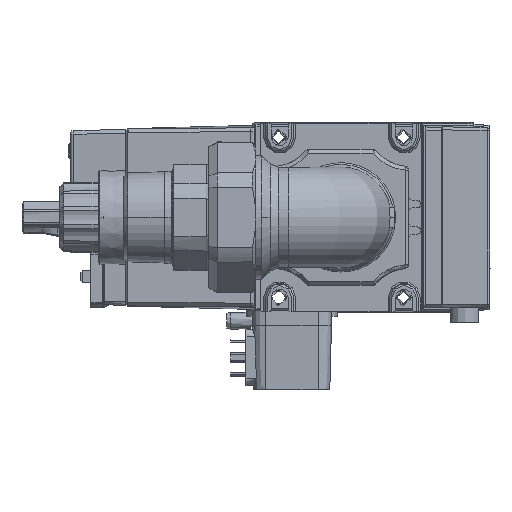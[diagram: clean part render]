
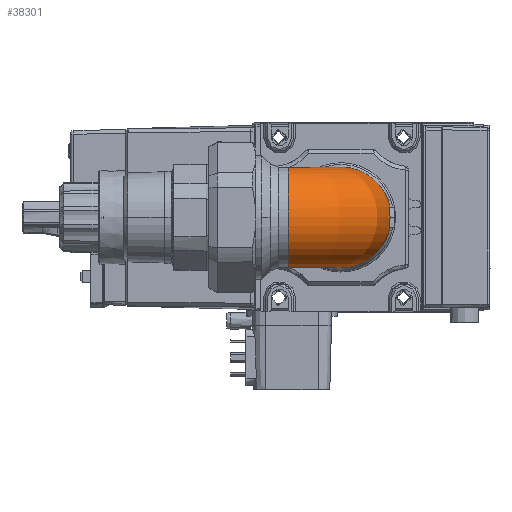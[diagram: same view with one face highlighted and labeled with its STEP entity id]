
A CAD part, left-side view. The second image highlights one B-rep face of the part: STEP entity #38301.
In plain terms, the highlighted toroidal (fillet/blend) face has major radius 28 mm and minor radius 26.65 mm.
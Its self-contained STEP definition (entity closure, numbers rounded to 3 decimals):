
#274 = CARTESIAN_POINT ( 'NONE',  ( -272.2, 69.575, -2. ) ) ;
#335 = CARTESIAN_POINT ( 'NONE',  ( -273.625, 71., -2. ) ) ;
#1050 = CIRCLE ( 'NONE', #72653, 26.65 ) ;
#2012 = CARTESIAN_POINT ( 'NONE',  ( -272.2, 16.924, -5.5 ) ) ;
#2316 = EDGE_CURVE ( 'NONE', #3927, #66945, #54363, .T. ) ;
#3278 = CARTESIAN_POINT ( 'NONE',  ( -272.2, 71., -5.5 ) ) ;
#3927 = VERTEX_POINT ( 'NONE', #64053 ) ;
#4475 = ORIENTED_EDGE ( 'NONE', *, *, #26912, .T. ) ;
#5149 = CARTESIAN_POINT ( 'NONE',  ( -280.007, 17.49, 5.5 ) ) ;
#8708 = EDGE_CURVE ( 'NONE', #56890, #82208, #16228, .T. ) ;
#9390 = CARTESIAN_POINT ( 'NONE',  ( -280.007, 17.49, -5.5 ) ) ;
#11611 = DIRECTION ( 'NONE',  ( 1., 0., 0. ) ) ;
#12691 = DIRECTION ( 'NONE',  ( 0., 0., -1. ) ) ;
#12850 = CARTESIAN_POINT ( 'NONE',  ( -272.2, 71., 5.5 ) ) ;
#13578 = CARTESIAN_POINT ( 'NONE',  ( -272.2, 16.924, 5.5 ) ) ;
#13619 = CARTESIAN_POINT ( 'NONE',  ( -300.2, 71., 0. ) ) ;
#13912 = DIRECTION ( 'NONE',  ( 0., 0., -1. ) ) ;
#15004 = AXIS2_PLACEMENT_3D ( 'NONE', #13619, #57844, #21299 ) ;
#15121 = EDGE_CURVE ( 'NONE', #18514, #3927, #26697, .T. ) ;
#16079 = AXIS2_PLACEMENT_3D ( 'NONE', #70181, #71152, #24632 ) ;
#16228 = CIRCLE ( 'NONE', #31193, 54.076 ) ;
#18514 = VERTEX_POINT ( 'NONE', #37849 ) ;
#21184 = DIRECTION ( 'NONE',  ( 0., 1., 0. ) ) ;
#21299 = DIRECTION ( 'NONE',  ( -1., 0., 0. ) ) ;
#21608 = TOROIDAL_SURFACE ( 'NONE', #92919, 28., 26.65 ) ;
#24632 = DIRECTION ( 'NONE',  ( 0., 1., 0. ) ) ;
#26471 = CARTESIAN_POINT ( 'NONE',  ( -280.007, 17.49, -5.5 ) ) ;
#26697 = CIRCLE ( 'NONE', #16079, 1.425 ) ;
#26811 = ORIENTED_EDGE ( 'NONE', *, *, #43803, .T. ) ;
#26912 = EDGE_CURVE ( 'NONE', #70647, #96644, #95320, .T. ) ;
#27761 = CARTESIAN_POINT ( 'NONE',  ( -279.873, 17.083, -3.684 ) ) ;
#28649 = AXIS2_PLACEMENT_3D ( 'NONE', #49458, #64813, #11611 ) ;
#29731 = DIRECTION ( 'NONE',  ( -1., 0., 0. ) ) ;
#29934 = FACE_OUTER_BOUND ( 'NONE', #66682, .T. ) ;
#31193 = AXIS2_PLACEMENT_3D ( 'NONE', #12850, #50720, #65053 ) ;
#34738 = CARTESIAN_POINT ( 'NONE',  ( -279.927, 16.898, 1.85 ) ) ;
#35755 = CARTESIAN_POINT ( 'NONE',  ( -279.873, 17.083, 3.684 ) ) ;
#36389 = CARTESIAN_POINT ( 'NONE',  ( -280.168, 16.934, 0. ) ) ;
#37849 = CARTESIAN_POINT ( 'NONE',  ( -272.2, 69.575, 2. ) ) ;
#38301 = ADVANCED_FACE ( 'NONE', ( #29934 ), #21608, .T. ) ;
#42516 = ORIENTED_EDGE ( 'NONE', *, *, #77757, .T. ) ;
#42586 = ORIENTED_EDGE ( 'NONE', *, *, #2316, .T. ) ;
#43803 = EDGE_CURVE ( 'NONE', #94313, #73718, #1050, .T. ) ;
#48672 = ORIENTED_EDGE ( 'NONE', *, *, #65521, .T. ) ;
#49096 = DIRECTION ( 'NONE',  ( 1., 0., 0. ) ) ;
#49458 = CARTESIAN_POINT ( 'NONE',  ( -272.2, 71., -2. ) ) ;
#49486 = ORIENTED_EDGE ( 'NONE', *, *, #98246, .T. ) ;
#50720 = DIRECTION ( 'NONE',  ( 0., 0., 1. ) ) ;
#54363 = CIRCLE ( 'NONE', #15004, 26.65 ) ;
#54692 = ORIENTED_EDGE ( 'NONE', *, *, #71613, .T. ) ;
#56755 = CARTESIAN_POINT ( 'NONE',  ( -280.168, 16.934, 0. ) ) ;
#56890 = VERTEX_POINT ( 'NONE', #81196 ) ;
#57844 = DIRECTION ( 'NONE',  ( 0., -1., 0. ) ) ;
#58244 = CARTESIAN_POINT ( 'NONE',  ( -272.2, 43., 0. ) ) ;
#58803 = CARTESIAN_POINT ( 'NONE',  ( -272.2, 71., 0. ) ) ;
#64053 = CARTESIAN_POINT ( 'NONE',  ( -273.625, 71., 2. ) ) ;
#64813 = DIRECTION ( 'NONE',  ( 0., 0., 1. ) ) ;
#65053 = DIRECTION ( 'NONE',  ( 0., 1., 0. ) ) ;
#65521 = EDGE_CURVE ( 'NONE', #66945, #94313, #95598, .T. ) ;
#65567 = DIRECTION ( 'NONE',  ( -1., 0., 0. ) ) ;
#66682 = EDGE_LOOP ( 'NONE', ( #54692, #4475, #49486, #83990, #42516, #96784, #42586, #48672, #26811 ) ) ;
#66945 = VERTEX_POINT ( 'NONE', #335 ) ;
#67105 = DIRECTION ( 'NONE',  ( 1., 0., 0. ) ) ;
#69145 = CIRCLE ( 'NONE', #75788, 26.65 ) ;
#70181 = CARTESIAN_POINT ( 'NONE',  ( -272.2, 71., 2. ) ) ;
#70446 = DIRECTION ( 'NONE',  ( 0., 0., -1. ) ) ;
#70647 = VERTEX_POINT ( 'NONE', #9390 ) ;
#71152 = DIRECTION ( 'NONE',  ( 0., 0., -1. ) ) ;
#71613 = EDGE_CURVE ( 'NONE', #73718, #70647, #96119, .T. ) ;
#72653 = AXIS2_PLACEMENT_3D ( 'NONE', #89238, #29731, #21184 ) ;
#73718 = VERTEX_POINT ( 'NONE', #2012 ) ;
#75788 = AXIS2_PLACEMENT_3D ( 'NONE', #58244, #65567, #12691 ) ;
#77757 = EDGE_CURVE ( 'NONE', #82208, #18514, #69145, .T. ) ;
#80235 = CARTESIAN_POINT ( 'NONE',  ( -279.927, 16.898, -1.85 ) ) ;
#81196 = CARTESIAN_POINT ( 'NONE',  ( -280.007, 17.49, 5.5 ) ) ;
#82208 = VERTEX_POINT ( 'NONE', #13578 ) ;
#83990 = ORIENTED_EDGE ( 'NONE', *, *, #8708, .T. ) ;
#86198 = AXIS2_PLACEMENT_3D ( 'NONE', #3278, #70446, #49096 ) ;
#89238 = CARTESIAN_POINT ( 'NONE',  ( -272.2, 43., 0. ) ) ;
#92919 = AXIS2_PLACEMENT_3D ( 'NONE', #58803, #13912, #67105 ) ;
#94313 = VERTEX_POINT ( 'NONE', #274 ) ;
#95320 = B_SPLINE_CURVE_WITH_KNOTS ( 'NONE', 3,
 ( #26471, #27761, #80235, #56755 ),
 .UNSPECIFIED., .F., .F.,
 ( 4, 4 ),
 ( 0., 0.006 ),
 .UNSPECIFIED. ) ;
#95482 = B_SPLINE_CURVE_WITH_KNOTS ( 'NONE', 3,
 ( #96245, #34738, #35755, #5149 ),
 .UNSPECIFIED., .F., .F.,
 ( 4, 4 ),
 ( 0., 0.006 ),
 .UNSPECIFIED. ) ;
#95598 = CIRCLE ( 'NONE', #28649, 1.425 ) ;
#96119 = CIRCLE ( 'NONE', #86198, 54.076 ) ;
#96245 = CARTESIAN_POINT ( 'NONE',  ( -280.168, 16.934, 0. ) ) ;
#96644 = VERTEX_POINT ( 'NONE', #36389 ) ;
#96784 = ORIENTED_EDGE ( 'NONE', *, *, #15121, .T. ) ;
#98246 = EDGE_CURVE ( 'NONE', #96644, #56890, #95482, .T. ) ;
